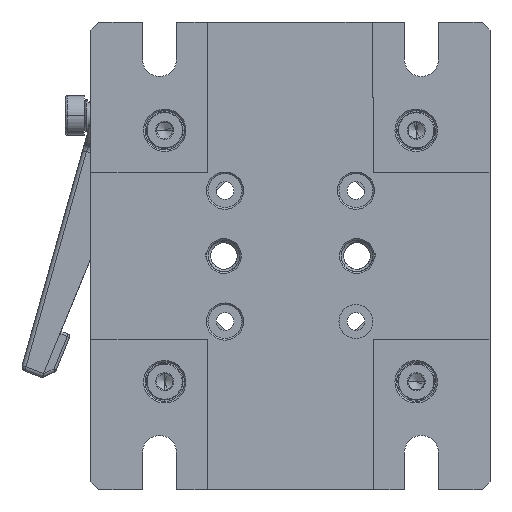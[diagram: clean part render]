
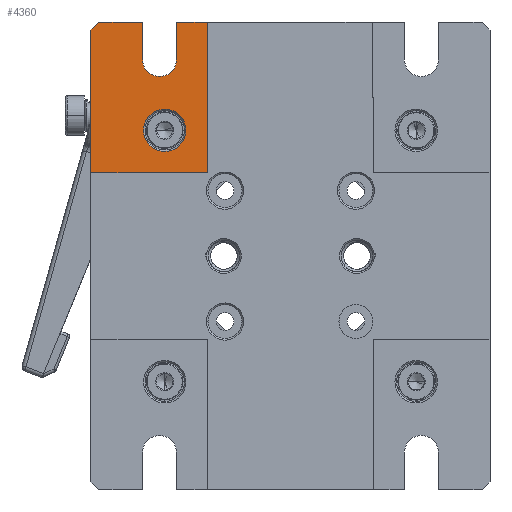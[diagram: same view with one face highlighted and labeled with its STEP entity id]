
A CAD part, front view. The second image highlights one B-rep face of the part: STEP entity #4360.
In plain terms, the highlighted planar face has unit normal (0, -1, 0).
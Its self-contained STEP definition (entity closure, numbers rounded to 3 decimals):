
#567=DIRECTION('',(0.,0.,-1.));
#568=VECTOR('',#567,7.141);
#569=CARTESIAN_POINT('',(-28.25,0.,44.641));
#570=LINE('',#569,#568);
#571=CARTESIAN_POINT('',(-25.,0.,37.5));
#572=DIRECTION('',(0.,1.,0.));
#573=DIRECTION('',(1.,0.,0.));
#574=AXIS2_PLACEMENT_3D('',#571,#572,#573);
#576=DIRECTION('',(0.,0.,-1.));
#577=VECTOR('',#576,7.141);
#578=CARTESIAN_POINT('',(-21.75,0.,44.641));
#579=LINE('',#578,#577);
#580=DIRECTION('',(1.,0.,0.));
#581=VECTOR('',#580,5.875);
#582=CARTESIAN_POINT('',(-21.75,0.,44.641));
#583=LINE('',#582,#581);
#584=DIRECTION('',(0.,0.,1.));
#585=VECTOR('',#584,28.766);
#586=CARTESIAN_POINT('',(-15.875,0.,15.875));
#587=LINE('',#586,#585);
#588=DIRECTION('',(1.,0.,0.));
#589=VECTOR('',#588,22.225);
#590=CARTESIAN_POINT('',(-38.1,0.,15.875));
#591=LINE('',#590,#589);
#592=DIRECTION('',(0.,0.,1.));
#593=VECTOR('',#592,27.266);
#594=CARTESIAN_POINT('',(-38.1,0.,15.875));
#595=LINE('',#594,#593);
#596=DIRECTION('',(-0.707,0.,-0.707));
#597=VECTOR('',#596,2.121);
#598=CARTESIAN_POINT('',(-36.6,0.,44.641));
#599=LINE('',#598,#597);
#600=DIRECTION('',(1.,0.,0.));
#601=VECTOR('',#600,8.35);
#602=CARTESIAN_POINT('',(-36.6,0.,44.641));
#603=LINE('',#602,#601);
#694=CARTESIAN_POINT('',(-24.003,0.,23.99));
#695=DIRECTION('',(0.,1.,0.));
#696=DIRECTION('',(-1.,0.,0.));
#697=AXIS2_PLACEMENT_3D('',#694,#695,#696);
#699=CARTESIAN_POINT('',(-24.003,0.,23.99));
#700=DIRECTION('',(0.,1.,0.));
#701=DIRECTION('',(1.,0.,0.));
#702=AXIS2_PLACEMENT_3D('',#699,#700,#701);
#3099=CARTESIAN_POINT('',(-15.875,0.,15.875));
#3100=VERTEX_POINT('',#3099);
#3115=CARTESIAN_POINT('',(-38.1,0.,15.875));
#3116=VERTEX_POINT('',#3115);
#3135=CARTESIAN_POINT('',(-15.875,0.,44.641));
#3136=VERTEX_POINT('',#3135);
#3241=CARTESIAN_POINT('',(-36.6,0.,44.641));
#3242=VERTEX_POINT('',#3241);
#3243=CARTESIAN_POINT('',(-38.1,0.,43.141));
#3244=VERTEX_POINT('',#3243);
#3407=CARTESIAN_POINT('',(-28.25,0.,44.641));
#3408=CARTESIAN_POINT('',(-28.25,0.,37.5));
#3409=VERTEX_POINT('',#3407);
#3410=VERTEX_POINT('',#3408);
#3411=CARTESIAN_POINT('',(-21.75,0.,44.641));
#3412=CARTESIAN_POINT('',(-21.75,0.,37.5));
#3413=VERTEX_POINT('',#3411);
#3414=VERTEX_POINT('',#3412);
#3487=CARTESIAN_POINT('',(-28.053,0.,23.99));
#3488=CARTESIAN_POINT('',(-19.953,0.,23.99));
#3489=VERTEX_POINT('',#3487);
#3490=VERTEX_POINT('',#3488);
#4330=CARTESIAN_POINT('',(-38.1,0.,-44.641));
#4331=DIRECTION('',(0.,1.,0.));
#4332=DIRECTION('',(0.,0.,1.));
#4333=AXIS2_PLACEMENT_3D('',#4330,#4331,#4332);
#4334=PLANE('',#4333);
#4336=ORIENTED_EDGE('',*,*,#4335,.T.);
#4338=ORIENTED_EDGE('',*,*,#4337,.F.);
#4340=ORIENTED_EDGE('',*,*,#4339,.F.);
#4342=ORIENTED_EDGE('',*,*,#4341,.T.);
#4344=ORIENTED_EDGE('',*,*,#4343,.F.);
#4346=ORIENTED_EDGE('',*,*,#4345,.F.);
#4348=ORIENTED_EDGE('',*,*,#4347,.T.);
#4350=ORIENTED_EDGE('',*,*,#4349,.F.);
#4352=ORIENTED_EDGE('',*,*,#4351,.T.);
#4353=EDGE_LOOP('',(#4336,#4338,#4340,#4342,#4344,#4346,#4348,#4350,#4352));
#4354=FACE_OUTER_BOUND('',#4353,.F.);
#4355=ORIENTED_EDGE('',*,*,#4286,.F.);
#4357=ORIENTED_EDGE('',*,*,#4356,.F.);
#4358=EDGE_LOOP('',(#4355,#4357));
#4359=FACE_BOUND('',#4358,.F.);
#4360=ADVANCED_FACE('',(#4354,#4359),#4334,.F.);
#575=CIRCLE('',#574,3.25);
#698=CIRCLE('',#697,4.05);
#703=CIRCLE('',#702,4.05);
#4286=EDGE_CURVE('',#3489,#3490,#698,.T.);
#4335=EDGE_CURVE('',#3409,#3410,#570,.T.);
#4337=EDGE_CURVE('',#3414,#3410,#575,.T.);
#4339=EDGE_CURVE('',#3413,#3414,#579,.T.);
#4341=EDGE_CURVE('',#3413,#3136,#583,.T.);
#4343=EDGE_CURVE('',#3100,#3136,#587,.T.);
#4345=EDGE_CURVE('',#3116,#3100,#591,.T.);
#4347=EDGE_CURVE('',#3116,#3244,#595,.T.);
#4349=EDGE_CURVE('',#3242,#3244,#599,.T.);
#4351=EDGE_CURVE('',#3242,#3409,#603,.T.);
#4356=EDGE_CURVE('',#3490,#3489,#703,.T.);
